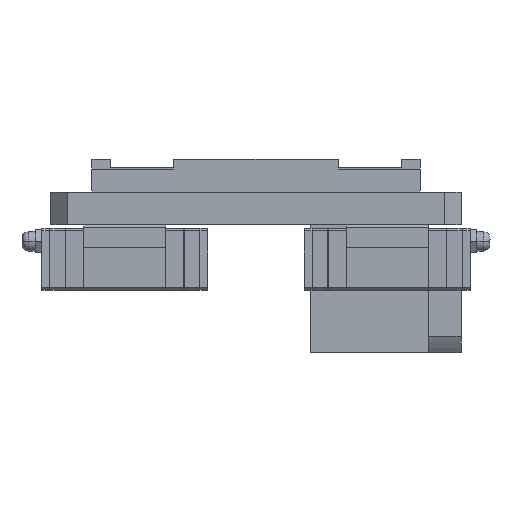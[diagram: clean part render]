
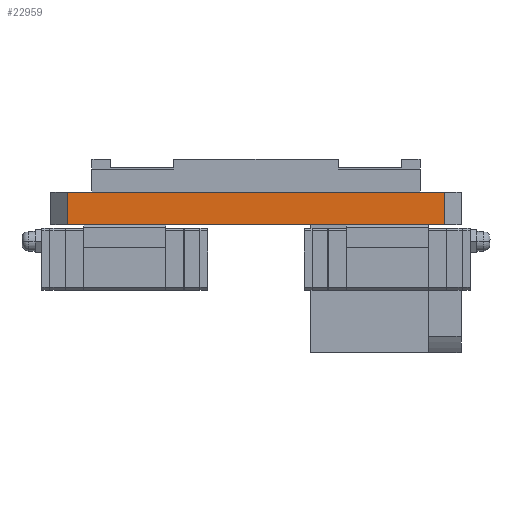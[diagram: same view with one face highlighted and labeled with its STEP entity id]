
A CAD part, left-side view. The second image highlights one B-rep face of the part: STEP entity #22959.
In plain terms, the highlighted planar face has unit normal (-1, 0, 0).
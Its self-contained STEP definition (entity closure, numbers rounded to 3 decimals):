
#785 = DIRECTION ( 'NONE',  ( 0., 1., 0. ) ) ;
#1304 = CARTESIAN_POINT ( 'NONE',  ( -100., 0., 57.5 ) ) ;
#1859 = LINE ( 'NONE', #13459, #6267 ) ;
#2292 = EDGE_CURVE ( 'NONE', #3623, #17322, #22913, .T. ) ;
#3623 = VERTEX_POINT ( 'NONE', #9850 ) ;
#3635 = ORIENTED_EDGE ( 'NONE', *, *, #9436, .T. ) ;
#4264 = ORIENTED_EDGE ( 'NONE', *, *, #2292, .T. ) ;
#4633 = EDGE_CURVE ( 'NONE', #8257, #3623, #4686, .T. ) ;
#4641 = ORIENTED_EDGE ( 'NONE', *, *, #10492, .F. ) ;
#4686 = LINE ( 'NONE', #18623, #7048 ) ;
#6267 = VECTOR ( 'NONE', #16845, 1000. ) ;
#7048 = VECTOR ( 'NONE', #11202, 1000. ) ;
#7482 = DIRECTION ( 'NONE',  ( 0., 0., 1. ) ) ;
#7617 = DIRECTION ( 'NONE',  ( 1., 0., 0. ) ) ;
#8257 = VERTEX_POINT ( 'NONE', #13421 ) ;
#8275 = CARTESIAN_POINT ( 'NONE',  ( -100., 10., 57.5 ) ) ;
#8494 = VECTOR ( 'NONE', #7482, 1000. ) ;
#9436 = EDGE_CURVE ( 'NONE', #17322, #21736, #11962, .T. ) ;
#9850 = CARTESIAN_POINT ( 'NONE',  ( -100., 0., -57.5 ) ) ;
#9919 = AXIS2_PLACEMENT_3D ( 'NONE', #11210, #7617, #24366 ) ;
#10492 = EDGE_CURVE ( 'NONE', #8257, #21736, #1859, .T. ) ;
#11202 = DIRECTION ( 'NONE',  ( 0., -1., 0. ) ) ;
#11210 = CARTESIAN_POINT ( 'NONE',  ( -100., 10., 62.5 ) ) ;
#11962 = LINE ( 'NONE', #8275, #12245 ) ;
#12245 = VECTOR ( 'NONE', #785, 1000. ) ;
#12270 = FACE_OUTER_BOUND ( 'NONE', #22337, .T. ) ;
#13421 = CARTESIAN_POINT ( 'NONE',  ( -100., 10., -57.5 ) ) ;
#13459 = CARTESIAN_POINT ( 'NONE',  ( -100., 10., 62.5 ) ) ;
#16845 = DIRECTION ( 'NONE',  ( 0., 0., 1. ) ) ;
#16866 = CARTESIAN_POINT ( 'NONE',  ( -100., 0., 62.5 ) ) ;
#17322 = VERTEX_POINT ( 'NONE', #1304 ) ;
#18623 = CARTESIAN_POINT ( 'NONE',  ( -100., 10., -57.5 ) ) ;
#18757 = CARTESIAN_POINT ( 'NONE',  ( -100., 10., 57.5 ) ) ;
#20767 = PLANE ( 'NONE',  #9919 ) ;
#21736 = VERTEX_POINT ( 'NONE', #18757 ) ;
#22337 = EDGE_LOOP ( 'NONE', ( #4641, #24303, #4264, #3635 ) ) ;
#22913 = LINE ( 'NONE', #16866, #8494 ) ;
#22959 = ADVANCED_FACE ( 'NONE', ( #12270 ), #20767, .F. ) ;
#24303 = ORIENTED_EDGE ( 'NONE', *, *, #4633, .T. ) ;
#24366 = DIRECTION ( 'NONE',  ( 0., 0., -1. ) ) ;
